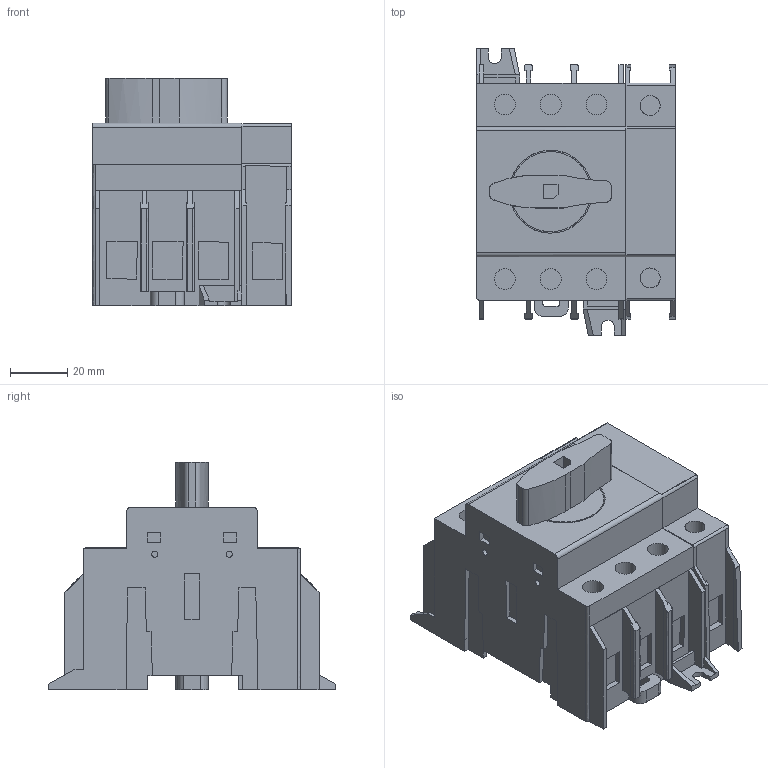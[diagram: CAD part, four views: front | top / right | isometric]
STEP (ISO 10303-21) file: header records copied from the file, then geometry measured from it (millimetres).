
FILE_DESCRIPTION (( 'STEP AP203' ), '1' );
FILE_NAME ('OptiSwitch DI-80-125-4 (m=0,32羱).STEP', '2023-02-21T18:40:04', ( '砐錪賧瘔蠈錪' ), ( '' ), 'SwSTEP 2.0', 'SolidWorks 2018', '' );
FILE_SCHEMA (( 'CONFIG_CONTROL_DESIGN' ));
Length unit declared in the file: millimetre
Products named in the file (1): OptiSwitch DI-80-125-4 (m=0,32羱)
Bounding box: 69.46 x 100.13 x 79.55 mm (x, y, z)
Volume: 290863 mm3; surface area: 46409.6 mm2
Topology: 1 solids, 6 shells, 451 faces, 1200 edges, 791 vertices
Faces by surface type: plane 374, bspline 44, cylinder 33
Full cylindrical faces by diameter (mm): 2.2 x4, 6.5 x2, 7.3 x6, 11.213 x1, 28 x1, 29 x1
Entity records: 14450 total; most frequent: CARTESIAN_POINT 3557, ORIENTED_EDGE 2362, DIRECTION 1983, EDGE_CURVE 1181, LINE 1003, VECTOR 1003, VERTEX_POINT 789, EDGE_LOOP 504
